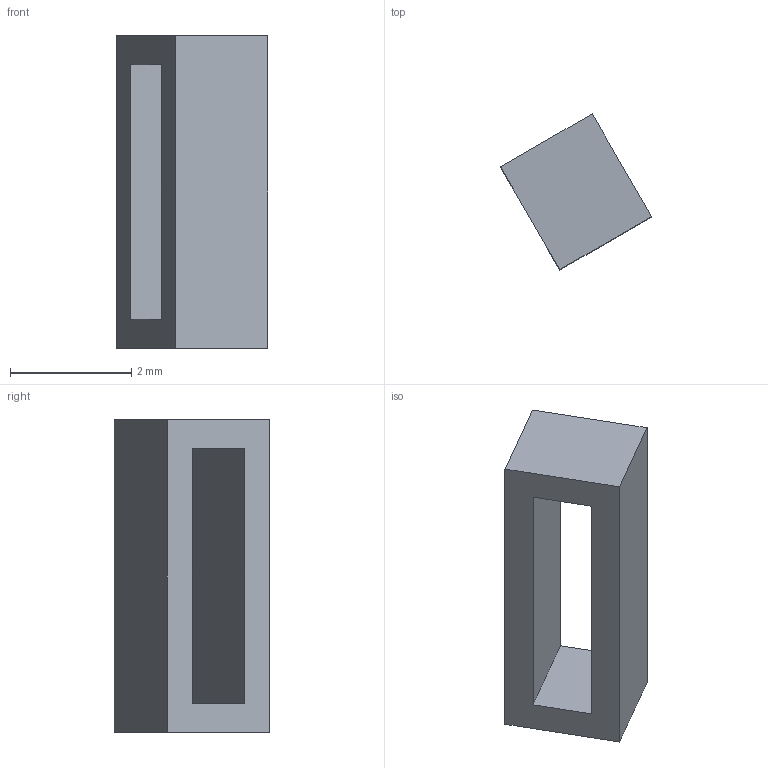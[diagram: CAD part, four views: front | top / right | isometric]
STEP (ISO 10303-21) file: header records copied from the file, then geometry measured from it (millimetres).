
FILE_DESCRIPTION(('Open CASCADE Model'),'2;1');
FILE_NAME('Open CASCADE Shape Model','2026-10-24T17:46:06',('Author'),( 'Open CASCADE'),'Open CASCADE STEP processor 8.0','Open CASCADE 8.0' ,'Unknown');
FILE_SCHEMA(('AUTOMOTIVE_DESIGN { 1 0 10303 214 1 1 1 1 }'));
Length unit declared in the file: millimetre
Products named in the file (1): Open CASCADE STEP translator 8.0 28
Bounding box: 2.5 x 2.57 x 5.16 mm (x, y, z)
Volume: 10.3 mm3; surface area: 54.9 mm2
Topology: 1 solids, 1 shells, 10 faces, 24 edges, 16 vertices
Faces by surface type: plane 10
Entity records: 614 total; most frequent: CARTESIAN_POINT 99, DIRECTION 94, LINE 72, VECTOR 72, ORIENTED_EDGE 48, PCURVE 48, DEFINITIONAL_REPRESENTATION 48, EDGE_CURVE 24
